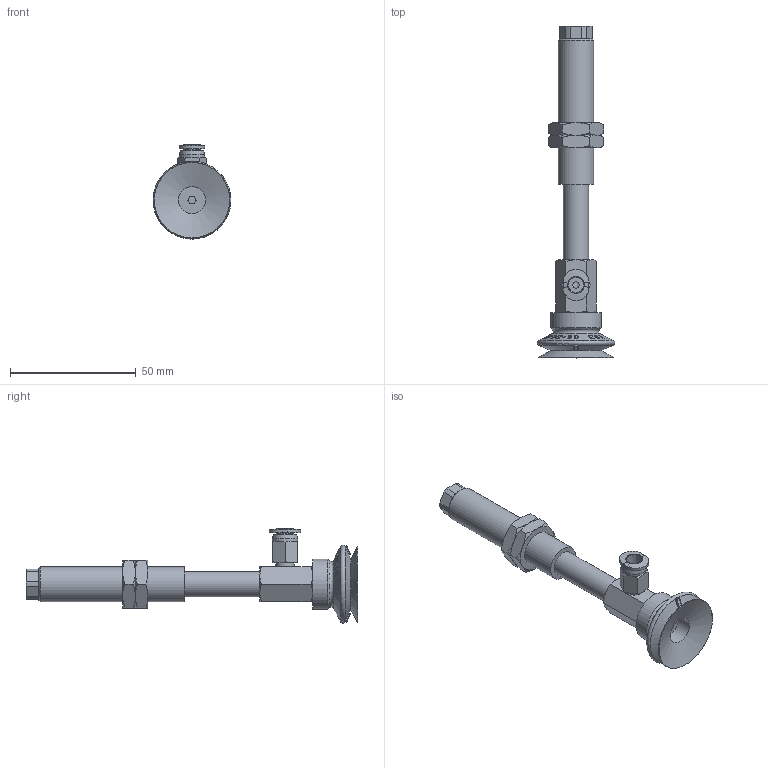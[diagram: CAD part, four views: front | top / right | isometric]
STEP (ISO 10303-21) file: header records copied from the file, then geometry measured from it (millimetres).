
FILE_DESCRIPTION(('STEP AP214'),'1');
FILE_NAME('-O.stp','2026-01-21T06:06:40',(' '),(' '),'Spatial InterOp 3D',' ',' ');
FILE_SCHEMA(('AUTOMOTIVE_DESIGN { 1 0 10303 214 1 1 1 1 }'));
Length unit declared in the file: millimetre
Products named in the file (8): BNABPJYS-30-30-※-O; PC-C_06-M5; BPJG-30-※; Adapter-30-NAPJ; CONNECTOR_S-30-30; NUT-NAPJ-30-30-s; NAPJYS-30-30-FBODY; NAPJYS-30-30-MBODY
Assembly tree (8 placements, depth 2):
  BNABPJYS-30-30-※-O
    PC-C_06-M5
    BPJG-30-※
    Adapter-30-NAPJ
    CONNECTOR_S-30-30
    NUT-NAPJ-30-30-s  x2
    NAPJYS-30-30-FBODY
    NAPJYS-30-30-MBODY
Bounding box: 30.99 x 132 x 37.48 mm (x, y, z)
Volume: 22295.4 mm3; surface area: 17176.1 mm2
Topology: 7 solids, 10 shells, 833 faces, 2269 edges, 1484 vertices
Faces by surface type: plane 692, cone 86, cylinder 39, torus 9, bspline 4, revolution 3
Full cylindrical faces by diameter (mm): 3 x2, 4 x2, 4.134 x2, 4.917 x1, 5 x2, 5.8 x1, 6 x1, 7 x1, 7.4 x1, 8.2 x1, 10 x3, 10.8 x1, 11 x1, 13.188 x2, 14 x1, 20 x1
Entity records: 33177 total; most frequent: CARTESIAN_POINT 8335, ORIENTED_EDGE 4328, DIRECTION 2822, EDGE_CURVE 2166, VERTEX_POINT 1449, B_SPLINE_CURVE_WITH_KNOTS 1092, AXIS2_PLACEMENT_3D 955, LINE 909
